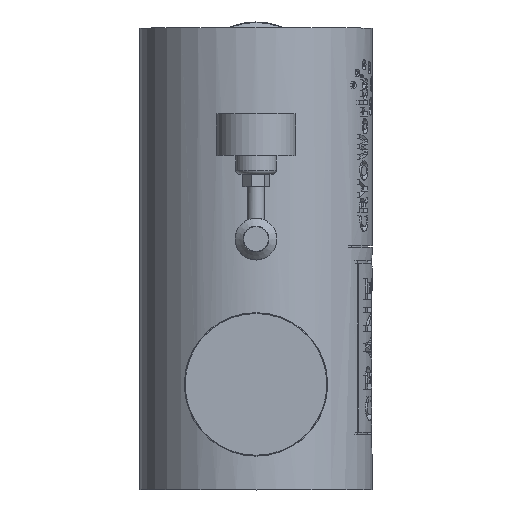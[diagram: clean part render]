
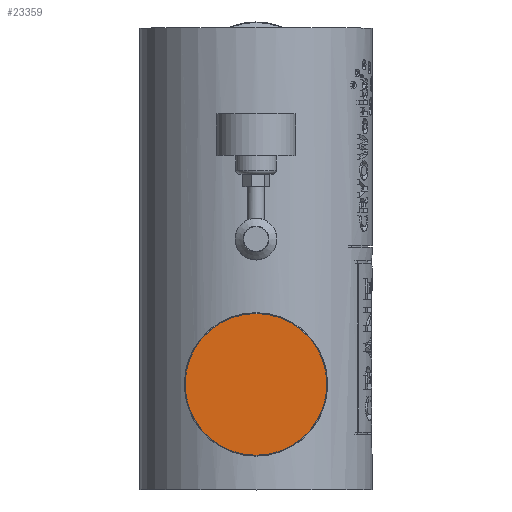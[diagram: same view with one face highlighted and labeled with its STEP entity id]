
A CAD part, top view. The second image highlights one B-rep face of the part: STEP entity #23359.
In plain terms, the highlighted planar face has unit normal (0, 0, 1).
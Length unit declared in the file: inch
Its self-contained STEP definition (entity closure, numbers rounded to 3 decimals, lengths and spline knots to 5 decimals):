
#4305 = AXIS2_PLACEMENT_3D ( 'NONE', #6685, #23840, #26134 ) ;
#5955 = EDGE_CURVE ( 'NONE', #7059, #7059, #7478, .T. ) ;
#6685 = CARTESIAN_POINT ( 'NONE',  ( 0., 1.7185, 0. ) ) ;
#7059 = VERTEX_POINT ( 'NONE', #13352 ) ;
#7478 = CIRCLE ( 'NONE', #9777, 1.6985 ) ;
#9777 = AXIS2_PLACEMENT_3D ( 'NONE', #23492, #14634, #19087 ) ;
#13352 = CARTESIAN_POINT ( 'NONE',  ( 1.6985, 0., 0. ) ) ;
#13783 = EDGE_LOOP ( 'NONE', ( #14860 ) ) ;
#14634 = DIRECTION ( 'NONE',  ( 0., 0., 1. ) ) ;
#14860 = ORIENTED_EDGE ( 'NONE', *, *, #5955, .T. ) ;
#19087 = DIRECTION ( 'NONE',  ( 1., 0., 0. ) ) ;
#19285 = FACE_OUTER_BOUND ( 'NONE', #13783, .T. ) ;
#21701 = PLANE ( 'NONE',  #4305 ) ;
#23359 = ADVANCED_FACE ( 'NONE', ( #19285 ), #21701, .T. ) ;
#23492 = CARTESIAN_POINT ( 'NONE',  ( 0., 0., 0. ) ) ;
#23840 = DIRECTION ( 'NONE',  ( 0., 0., 1. ) ) ;
#26134 = DIRECTION ( 'NONE',  ( 1., 0., 0. ) ) ;
